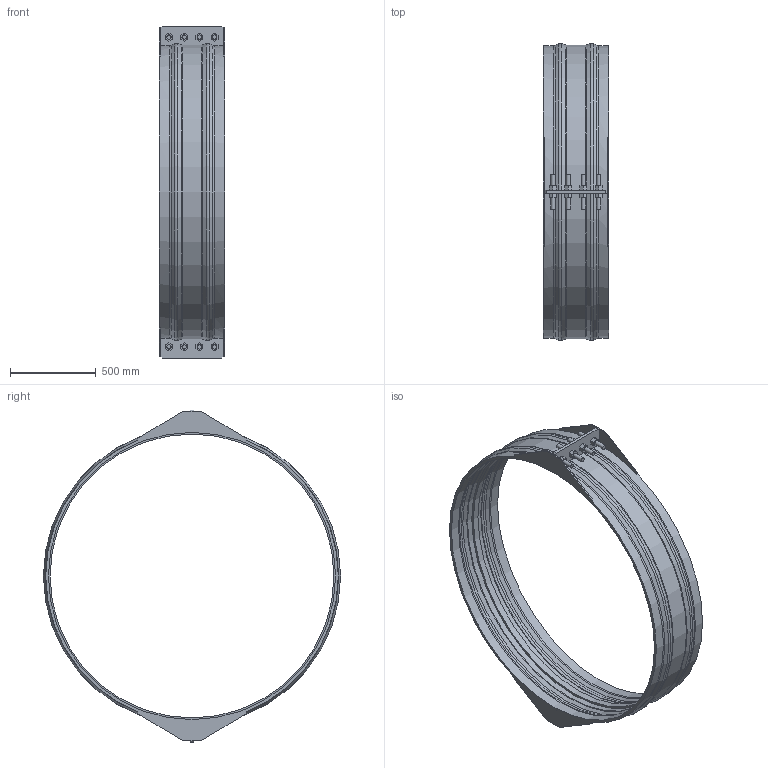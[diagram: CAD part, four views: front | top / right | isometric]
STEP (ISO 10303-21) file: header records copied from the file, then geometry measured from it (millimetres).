
FILE_DESCRIPTION(/* description */ ('VIC RESTRAINED COUPLING STYLE 233 (FLEX) (BRD)','CAx-IF Rec.Pracs.---Representation and Presentation of Product Manufacturing Information (PMI)---4.0---2014-10-13'),/* implementation_level */ '2;1');
FILE_NAME(/* name */ 'C:\Users\Vjadhav\Desktop\CAD for Inventor\Test for STEP\Vivek\Adsk_Inventor_Bolted Sleeve_iParts\STEP\Victaulic_VBSP_Coupling Flexible Restrained_Style 233 (BRD)\Victaulic_VBSP_Coupling Flexible Restrained_Style 233 (BRD)_200psi_66 (1650).stp',/* time_stamp */ '2020-09-24T12:30:48+05:00',/* author */ ('Vjadhav'),/* organization */ ('Victaulic'),/* preprocessor_version */ 'ST-DEVELOPER v17.2',/* originating_system */ 'Autodesk Inventor 2019',/* authorisation */ '');
FILE_SCHEMA (('AP242_MANAGED_MODEL_BASED_3D_ENGINEERING_MIM_LF { 1 0 10303 442 1 1 4 }'));
Length unit declared in the file: inch
Products named in the file (1): Style_233_Type_2_200psi-66.0
Bounding box: 381 x 1734.84 x 1938.02 mm (x, y, z)
Volume: 38807269.7 mm3; surface area: 5065196.3 mm2
Topology: 1 solids, 1 shells, 239 faces, 625 edges, 422 vertices
Faces by surface type: plane 166, cylinder 43, torus 18, cone 12
Full cylindrical faces by diameter (mm): 25.4 x16, 1657.35 x1, 1676.4 x2, 1682.75 x2
Entity records: 7896 total; most frequent: CARTESIAN_POINT 1496, DIRECTION 1259, ORIENTED_EDGE 1250, EDGE_CURVE 625, LINE 449, VECTOR 449, VERTEX_POINT 422, AXIS2_PLACEMENT_3D 405
